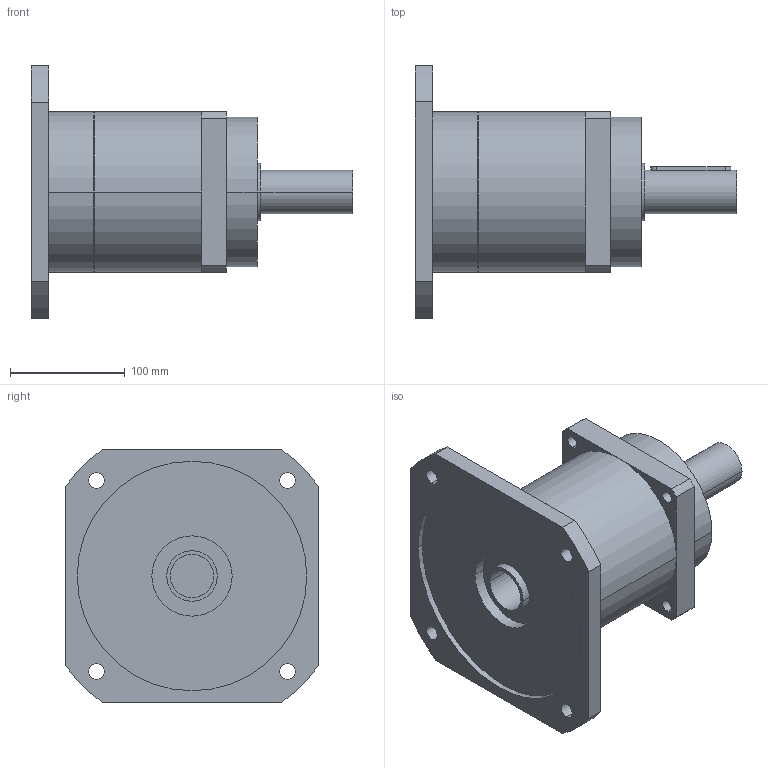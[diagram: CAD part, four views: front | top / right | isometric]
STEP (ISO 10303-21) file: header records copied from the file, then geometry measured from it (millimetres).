
FILE_DESCRIPTION(('CoCreate Modeling STEP Export'),'2;1');
FILE_NAME('GPR150_ig-3-4-5-7_38_B5_38_P12.stp','2014-08-19T16:43:34',(''),(''),'CoCreate Modeling STEP processor for AP214 (Solid Model)','CoCreate Modeling 16.00C 25-Feb-2009 (C) Parametric Technology GmbH','');
FILE_SCHEMA(('AUTOMOTIVE_DESIGN { 1 0 10303 214 1 1 1 1 }'));
Length unit declared in the file: millimetre
Products named in the file (2): GPR150_ig-3-4-5-7_38_B5_38_P12
Assembly tree (1 placements, depth 2):
  GPR150_ig-3-4-5-7_38_B5_38_P12
    GPR150_ig-3-4-5-7_38_B5_38_P12
Bounding box: 280 x 220 x 220 mm (x, y, z)
Volume: 3344644.7 mm3; surface area: 225790.8 mm2
Topology: 1 solids, 1 shells, 78 faces, 214 edges, 146 vertices
Faces by surface type: cylinder 46, plane 26, cone 6
Entity records: 2260 total; most frequent: ORIENTED_EDGE 424, CARTESIAN_POINT 421, DIRECTION 320, EDGE_CURVE 212, VERTEX_POINT 146, AXIS2_PLACEMENT_3D 117, EDGE_LOOP 104, VECTOR 86
